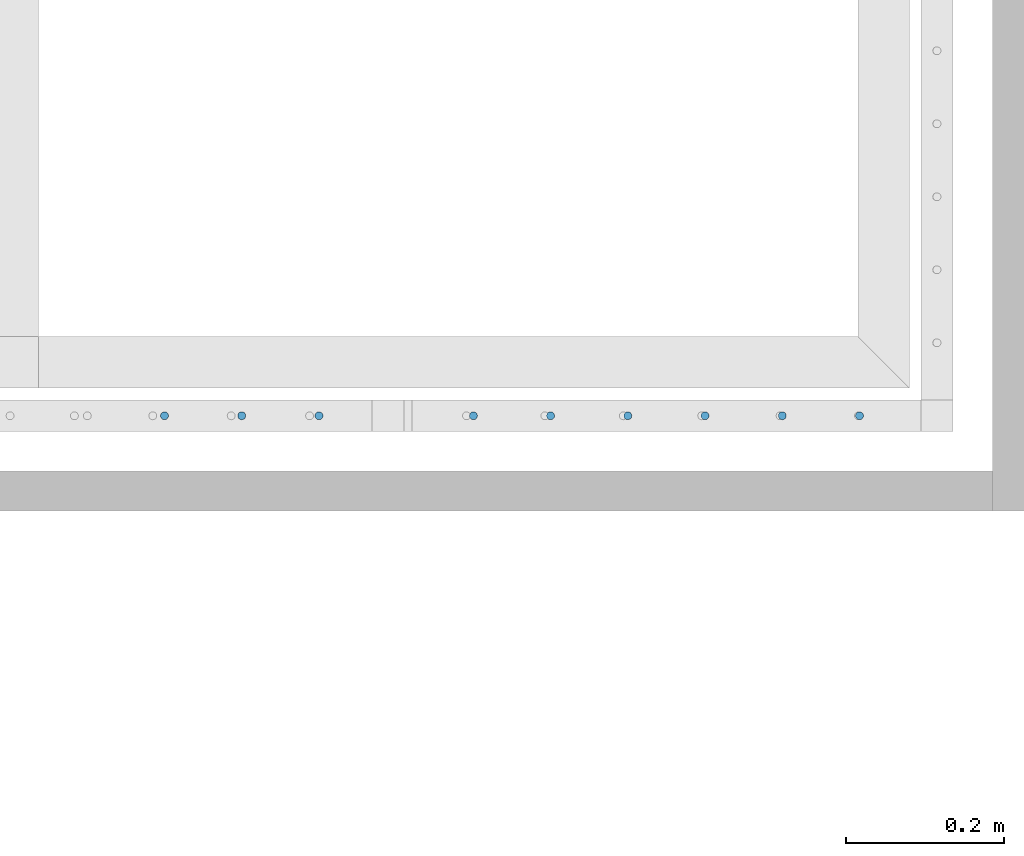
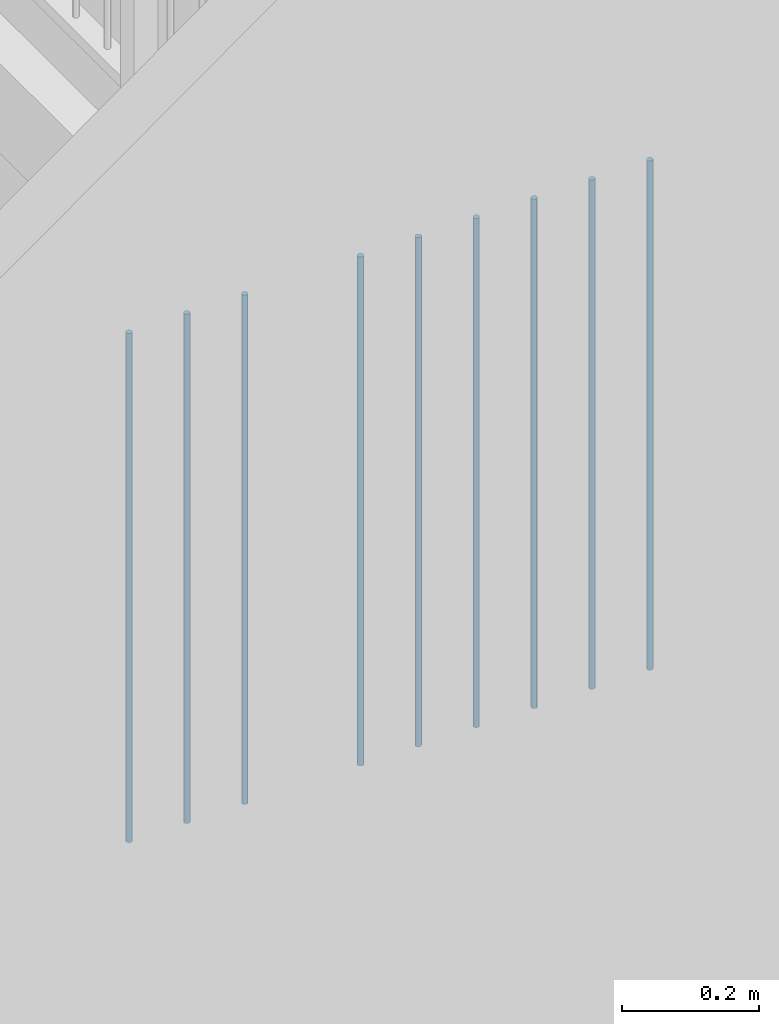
# One storey, part 35 of 135: 9 members, 1 element without a shape of its own.
"""IFC2X3 building model written with IfcOpenShell, lengths in millimetres."""

from ifc_helpers import new_model, entity, si_unit, converted_unit, derived_unit, money_unit, direction, frame, origin_with_axes, place, context, subcontext, project, spatial, faceted_brep, source, transform, mapped, material, type_object, type_shapes, element, aggregate, save


model = new_model("IFC2X3")

# Units and contexts
model_context = context("Model", 3, precision=0.01, world=origin_with_axes(), true_north=direction((0.0, 1.0)))
body_context = subcontext(model_context, "Body", "Model", "MODEL_VIEW")
ifc_project = project(units=[si_unit("LENGTHUNIT", "METRE", prefix="MILLI"), si_unit("AREAUNIT", "SQUARE_METRE"), si_unit("VOLUMEUNIT", "CUBIC_METRE"), converted_unit("PLANEANGLEUNIT", "DEGREE", entity("IfcPlaneAngleMeasure", 0.0174532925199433), si_unit("PLANEANGLEUNIT", "RADIAN"), dimensions=[0, 0, 0, 0, 0, 0, 0]), money_unit("EUR"), converted_unit("TIMEUNIT", "Year", entity("IfcTimeMeasure", 31557600.0), si_unit("TIMEUNIT", "SECOND"), dimensions=[0, 0, 1, 0, 0, 0, 0]), si_unit("MASSUNIT", "GRAM", prefix="KILO"), si_unit("THERMODYNAMICTEMPERATUREUNIT", "DEGREE_CELSIUS"), si_unit("LUMINOUSINTENSITYUNIT", "LUMEN"), si_unit("ENERGYUNIT", "JOULE", prefix="MEGA"), derived_unit("THERMALCONDUCTANCEUNIT", [(si_unit("POWERUNIT", "WATT"), 1), (si_unit("LENGTHUNIT", "METRE"), -1), (si_unit("THERMODYNAMICTEMPERATUREUNIT", "KELVIN"), -1)]), derived_unit("SPECIFICHEATCAPACITYUNIT", [(si_unit("ENERGYUNIT", "JOULE"), 1), (si_unit("MASSUNIT", "GRAM", prefix="KILO"), -1), (si_unit("THERMODYNAMICTEMPERATUREUNIT", "KELVIN"), -1)]), derived_unit("MASSDENSITYUNIT", [(si_unit("MASSUNIT", "GRAM", prefix="KILO"), 1), (si_unit("VOLUMEUNIT", "CUBIC_METRE"), -1)])], contexts=[model_context])

# Site, building, storey
site_placement = place(None, origin_with_axes())
site = spatial("IfcSite", under=ifc_project, at=site_placement, Name="Site", CompositionType="ELEMENT")
building_placement = place(site_placement, origin_with_axes())
building = spatial("IfcBuilding", under=site, at=building_placement, Name="Naam gebouw", CompositionType="ELEMENT")
storey_placement = place(building_placement, origin_with_axes())
storey = spatial("IfcBuildingStorey", under=building, at=storey_placement, Name="Begane grond N", CompositionType="ELEMENT", Elevation=0.0)

# Railing, members
railing_type = type_object("IfcRailingType", Name="Railing Type", PredefinedType="NOTDEFINED")
railing_placement = place(storey_placement, frame((56236.62159597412, 21185.9124251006, 157.4646725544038), z_axis=(0.0, 0.0, 1.0), x_axis=(1.0, 0.0, 0.0)))
railing = element("IfcRailing", 1, at=railing_placement, inside=storey, type_object=railing_type, Name="_Reling-x", PredefinedType="NOTDEFINED")
ifc_material = material(Name="Metaal - Staal C")
member_type = type_object("IfcMemberType", Name="IfcMember", PredefinedType="MEMBER")
shared_shape = source(origin_with_axes(), body_context, "Body", "Brep", [
    faceted_brep([(0.0, -5.0, 0.0), (0.8682408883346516, -4.92403876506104, 0.0), (0.868240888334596, -4.92403876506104, 907.5000000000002), (0.0, -5.0, 907.5000000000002), (-0.868240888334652, -4.92403876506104, 0.0), (-1.710100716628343, -4.698463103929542, 0.0), (-2.500000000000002, -4.330127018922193, 0.0), (-3.213938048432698, -3.830222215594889, 0.0), (-3.830222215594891, -3.213938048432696, 0.0), (-4.330127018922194, -2.5, 0.0), (-4.698463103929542, -1.710100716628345, 0.0), (-4.924038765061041, -0.86824088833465, 0.0), (-5.0, 0.0, 0.0), (-4.92403876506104, 0.8682408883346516, 0.0), (-4.698463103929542, 1.710100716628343, 0.0), (-4.330127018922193, 2.500000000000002, 0.0), (-3.83022221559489, 3.213938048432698, 0.0), (-3.213938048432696, 3.83022221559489, 0.0), (-2.5, 4.330127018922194, 0.0), (-1.710100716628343, 4.698463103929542, 0.0), (-0.8682408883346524, 4.92403876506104, 0.0), (0.0, 5.0, 0.0), (0.8682408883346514, 4.92403876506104, 0.0), (1.710100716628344, 4.698463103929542, 0.0), (2.5, 4.330127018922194, 0.0), (3.213938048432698, 3.83022221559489, 0.0), (3.83022221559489, 3.213938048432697, 0.0), (4.330127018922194, 2.499999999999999, 0.0), (4.698463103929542, 1.710100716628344, 0.0), (4.92403876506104, 0.8682408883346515, 0.0), (5.0, 0.0, 0.0), (4.92403876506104, -0.8682408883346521, 0.0), (4.698463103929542, -1.710100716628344, 0.0), (4.330127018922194, -2.5, 0.0), (3.83022221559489, -3.213938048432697, 0.0), (3.213938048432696, -3.83022221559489, 0.0), (2.5, -4.330127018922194, 0.0), (1.710100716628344, -4.698463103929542, 0.0), (1.710100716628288, -4.698463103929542, 907.5000000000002), (2.499999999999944, -4.330127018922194, 907.5000000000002), (3.213938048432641, -3.83022221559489, 907.5000000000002), (3.830222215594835, -3.213938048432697, 907.5000000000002), (4.330127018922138, -2.5, 907.5000000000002), (4.698463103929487, -1.710100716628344, 907.5000000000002), (4.924038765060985, -0.8682408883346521, 907.5000000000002), (4.999999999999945, 0.0, 907.5000000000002), (4.924038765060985, 0.8682408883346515, 907.5000000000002), (4.698463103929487, 1.710100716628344, 907.5000000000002), (4.330127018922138, 2.499999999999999, 907.5000000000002), (3.830222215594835, 3.213938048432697, 907.5000000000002), (3.213938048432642, 3.83022221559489, 907.5000000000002), (2.499999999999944, 4.330127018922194, 907.5000000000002), (1.710100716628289, 4.698463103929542, 907.5000000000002), (0.8682408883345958, 4.92403876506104, 907.5000000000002), (0.0, 5.0, 907.5000000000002), (-0.868240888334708, 4.92403876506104, 907.5000000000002), (-1.710100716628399, 4.698463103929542, 907.5000000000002), (-2.500000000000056, 4.330127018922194, 907.5000000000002), (-3.213938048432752, 3.83022221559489, 907.5000000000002), (-3.830222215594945, 3.213938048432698, 907.5000000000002), (-4.330127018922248, 2.500000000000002, 907.5000000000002), (-4.698463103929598, 1.710100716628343, 907.5000000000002), (-4.924038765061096, 0.8682408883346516, 907.5000000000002), (-5.000000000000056, 0.0, 907.5000000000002), (-4.924038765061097, -0.86824088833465, 907.5000000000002), (-4.698463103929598, -1.710100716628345, 907.5000000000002), (-4.330127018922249, -2.5, 907.5000000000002), (-3.830222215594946, -3.213938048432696, 907.5000000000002), (-3.213938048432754, -3.830222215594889, 907.5000000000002), (-2.500000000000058, -4.330127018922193, 907.5000000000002), (-1.710100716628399, -4.698463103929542, 907.5000000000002), (-0.8682408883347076, -4.92403876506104, 907.5000000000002)], [[[0, 1, 2, 3]], [[0, 4, 5, 6, 7, 8, 9, 10, 11, 12, 13, 14, 15, 16, 17, 18, 19, 20, 21, 22, 23, 24, 25, 26, 27, 28, 29, 30, 31, 32, 33, 34, 35, 36, 37, 1]], [[1, 37, 38, 2]], [[3, 2, 38, 39, 40, 41, 42, 43, 44, 45, 46, 47, 48, 49, 50, 51, 52, 53, 54, 55, 56, 57, 58, 59, 60, 61, 62, 63, 64, 65, 66, 67, 68, 69, 70, 71]], [[4, 0, 3, 71]], [[5, 4, 71, 70]], [[6, 5, 70, 69]], [[7, 6, 69, 68]], [[8, 7, 68, 67]], [[9, 8, 67, 66]], [[10, 9, 66, 65]], [[11, 10, 65, 64]], [[12, 11, 64, 63]], [[13, 12, 63, 62]], [[14, 13, 62, 61]], [[15, 14, 61, 60]], [[16, 15, 60, 59]], [[17, 16, 59, 58]], [[18, 17, 58, 57]], [[19, 18, 57, 56]], [[20, 19, 56, 55]], [[21, 20, 55, 54]], [[22, 21, 54, 53]], [[23, 22, 53, 52]], [[24, 23, 52, 51]], [[25, 24, 51, 50]], [[26, 25, 50, 49]], [[27, 26, 49, 48]], [[28, 27, 48, 47]], [[29, 28, 47, 46]], [[30, 29, 46, 45]], [[31, 30, 45, 44]], [[32, 31, 44, 43]], [[33, 32, 43, 42]], [[34, 33, 42, 41]], [[35, 34, 41, 40]], [[36, 35, 40, 39]], [[37, 36, 39, 38]]]),
])
type_shapes(member_type, [shared_shape])
member_1_placement = place(railing_placement, frame((2932.593181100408, -24.99999999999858, 2000.208938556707), z_axis=(0.0, 0.0, 1.0), x_axis=(1.0, 0.0, 0.0)))
member_1 = element("IfcMember", 2, at=member_1_placement, type_object=member_type, material=ifc_material, Name="_Spijlen-x", ObjectType="MEMBER", context=body_context, shape_type="MappedRepresentation", body=[
    mapped(shared_shape, transform((0.0, 0.0, 0.0), x_axis=(0.0, -1.0, 0.0), y_axis=(1.0, 0.0, 0.0), z_axis=(0.0, 0.0, 1.0))),
])
member_2_placement = place(railing_placement, frame((3030.13762921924, -24.99999999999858, 2000.208938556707), z_axis=(0.0, 0.0, 1.0), x_axis=(1.0, 0.0, 0.0)))
member_2 = element("IfcMember", 3, at=member_2_placement, type_object=member_type, material=ifc_material, Name="_Spijlen-x", ObjectType="MEMBER", context=body_context, shape_type="MappedRepresentation", body=[
    mapped(shared_shape, transform((0.0, 0.0, 0.0), x_axis=(0.0, -1.0, 0.0), y_axis=(1.0, 0.0, 0.0), z_axis=(0.0, 0.0, 1.0))),
])
member_3_placement = place(railing_placement, frame((3127.682077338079, -24.99999999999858, 2000.208938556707), z_axis=(0.0, 0.0, 1.0), x_axis=(1.0, 0.0, 0.0)))
member_3 = element("IfcMember", 4, at=member_3_placement, type_object=member_type, material=ifc_material, Name="_Spijlen-x", ObjectType="MEMBER", context=body_context, shape_type="MappedRepresentation", body=[
    mapped(shared_shape, transform((0.0, 0.0, 0.0), x_axis=(0.0, -1.0, 0.0), y_axis=(1.0, 0.0, 0.0), z_axis=(0.0, 0.0, 1.0))),
])
member_4_placement = place(railing_placement, frame((3322.77097357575, -24.99999999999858, 2000.208938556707), z_axis=(0.0, 0.0, 1.0), x_axis=(1.0, 0.0, 0.0)))
member_4 = element("IfcMember", 5, at=member_4_placement, type_object=member_type, material=ifc_material, Name="_Spijlen-x", ObjectType="MEMBER", context=body_context, shape_type="MappedRepresentation", body=[
    mapped(shared_shape, transform((0.0, 0.0, 0.0), x_axis=(0.0, -1.0, 0.0), y_axis=(1.0, 0.0, 0.0), z_axis=(0.0, 0.0, 1.0))),
])
member_5_placement = place(railing_placement, frame((3420.315421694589, -24.99999999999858, 2000.208938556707), z_axis=(0.0, 0.0, 1.0), x_axis=(1.0, 0.0, 0.0)))
member_5 = element("IfcMember", 6, at=member_5_placement, type_object=member_type, material=ifc_material, Name="_Spijlen-x", ObjectType="MEMBER", context=body_context, shape_type="MappedRepresentation", body=[
    mapped(shared_shape, transform((0.0, 0.0, 0.0), x_axis=(0.0, -1.0, 0.0), y_axis=(1.0, 0.0, 0.0), z_axis=(0.0, 0.0, 1.0))),
])
member_6_placement = place(railing_placement, frame((3517.859869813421, -24.99999999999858, 2000.208938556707), z_axis=(0.0, 0.0, 1.0), x_axis=(1.0, 0.0, 0.0)))
member_6 = element("IfcMember", 7, at=member_6_placement, type_object=member_type, material=ifc_material, Name="_Spijlen-x", ObjectType="MEMBER", context=body_context, shape_type="MappedRepresentation", body=[
    mapped(shared_shape, transform((0.0, 0.0, 0.0), x_axis=(0.0, -1.0, 0.0), y_axis=(1.0, 0.0, 0.0), z_axis=(0.0, 0.0, 1.0))),
])
member_7_placement = place(railing_placement, frame((3712.948766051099, -24.99999999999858, 2000.208938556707), z_axis=(0.0, 0.0, 1.0), x_axis=(1.0, 0.0, 0.0)))
member_7 = element("IfcMember", 8, at=member_7_placement, type_object=member_type, material=ifc_material, Name="_Spijlen-x", ObjectType="MEMBER", context=body_context, shape_type="MappedRepresentation", body=[
    mapped(shared_shape, transform((0.0, 0.0, 0.0), x_axis=(0.0, -1.0, 0.0), y_axis=(1.0, 0.0, 0.0), z_axis=(0.0, 0.0, 1.0))),
])
member_8_placement = place(railing_placement, frame((3810.493214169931, -24.99999999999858, 2000.208938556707), z_axis=(0.0, 0.0, 1.0), x_axis=(1.0, 0.0, 0.0)))
member_8 = element("IfcMember", 9, at=member_8_placement, type_object=member_type, material=ifc_material, Name="_Spijlen-x", ObjectType="MEMBER", context=body_context, shape_type="MappedRepresentation", body=[
    mapped(shared_shape, transform((0.0, 0.0, 0.0), x_axis=(0.0, -1.0, 0.0), y_axis=(1.0, 0.0, 0.0), z_axis=(0.0, 0.0, 1.0))),
])
member_9_placement = place(railing_placement, frame((3615.40431793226, -24.99999999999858, 2000.208938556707), z_axis=(0.0, 0.0, 1.0), x_axis=(1.0, 0.0, 0.0)))
member_9 = element("IfcMember", 10, at=member_9_placement, type_object=member_type, material=ifc_material, Name="_Spijlen-x", ObjectType="MEMBER", context=body_context, shape_type="MappedRepresentation", body=[
    mapped(shared_shape, transform((0.0, 0.0, 0.0), x_axis=(0.0, -1.0, 0.0), y_axis=(1.0, 0.0, 0.0), z_axis=(0.0, 0.0, 1.0))),
])
aggregate(railing, [member_1, member_2, member_3, member_4, member_5, member_6, member_7, member_8, member_9])

save(model, "model.ifc")
